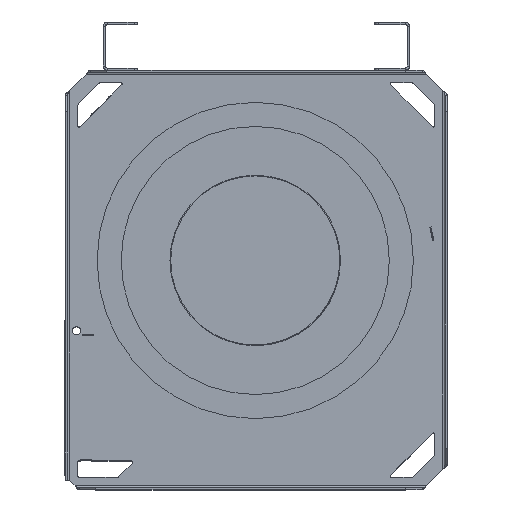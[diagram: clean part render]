
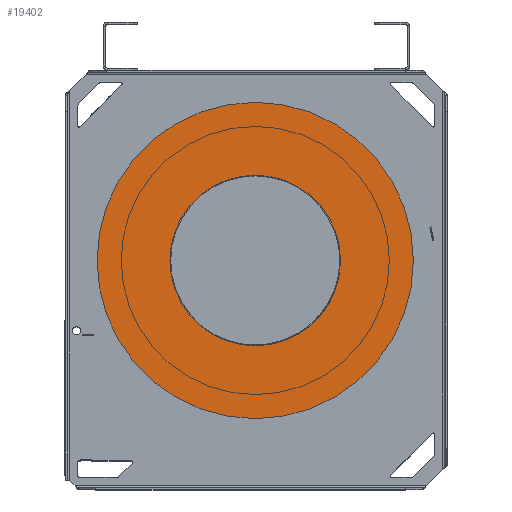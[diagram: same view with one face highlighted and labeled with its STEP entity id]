
A CAD part, top view. The second image highlights one B-rep face of the part: STEP entity #19402.
In plain terms, the highlighted planar face has unit normal (0, 0, 1).
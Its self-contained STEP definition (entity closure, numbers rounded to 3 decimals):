
#19258=CARTESIAN_POINT('',(0.,0.,2.));
#19259=DIRECTION('',(0.,0.,1.));
#19260=DIRECTION('',(1.,0.,0.));
#19261=AXIS2_PLACEMENT_3D('',#19258,#19259,#19260);
#19266=CARTESIAN_POINT('',(0.,0.,2.));
#19267=DIRECTION('',(0.,0.,1.));
#19268=DIRECTION('',(-1.,0.,0.));
#19269=AXIS2_PLACEMENT_3D('',#19266,#19267,#19268);
#19274=CARTESIAN_POINT('',(0.,0.,2.));
#19275=DIRECTION('',(0.,0.,-1.));
#19276=DIRECTION('',(1.,0.,0.));
#19277=AXIS2_PLACEMENT_3D('',#19274,#19275,#19276);
#19282=CARTESIAN_POINT('',(0.,0.,2.));
#19283=DIRECTION('',(0.,0.,-1.));
#19284=DIRECTION('',(-1.,0.,0.));
#19285=AXIS2_PLACEMENT_3D('',#19282,#19283,#19284);
#19312=CARTESIAN_POINT('',(230.,0.,2.));
#19313=CARTESIAN_POINT('',(-230.,0.,2.));
#19314=VERTEX_POINT('',#19312);
#19315=VERTEX_POINT('',#19313);
#19316=CARTESIAN_POINT('',(124.,0.,2.));
#19317=CARTESIAN_POINT('',(-124.,0.,2.));
#19318=VERTEX_POINT('',#19316);
#19319=VERTEX_POINT('',#19317);
#19387=CARTESIAN_POINT('',(0.,0.,2.));
#19388=DIRECTION('',(0.,0.,1.));
#19389=DIRECTION('',(1.,0.,0.));
#19390=AXIS2_PLACEMENT_3D('',#19387,#19388,#19389);
#19391=PLANE('',#19390);
#19392=ORIENTED_EDGE('',*,*,#19353,.F.);
#19393=ORIENTED_EDGE('',*,*,#19374,.F.);
#19394=EDGE_LOOP('',(#19392,#19393));
#19395=FACE_OUTER_BOUND('',#19394,.F.);
#19397=ORIENTED_EDGE('',*,*,#19396,.F.);
#19399=ORIENTED_EDGE('',*,*,#19398,.F.);
#19400=EDGE_LOOP('',(#19397,#19399));
#19401=FACE_BOUND('',#19400,.F.);
#19262=CIRCLE('',#19261,230.);
#19270=CIRCLE('',#19269,230.);
#19278=CIRCLE('',#19277,124.);
#19286=CIRCLE('',#19285,124.);
#19353=EDGE_CURVE('',#19314,#19315,#19262,.T.);
#19374=EDGE_CURVE('',#19315,#19314,#19270,.T.);
#19396=EDGE_CURVE('',#19318,#19319,#19278,.T.);
#19398=EDGE_CURVE('',#19319,#19318,#19286,.T.);
#19402=ADVANCED_FACE('',(#19395,#19401),#19391,.T.);
